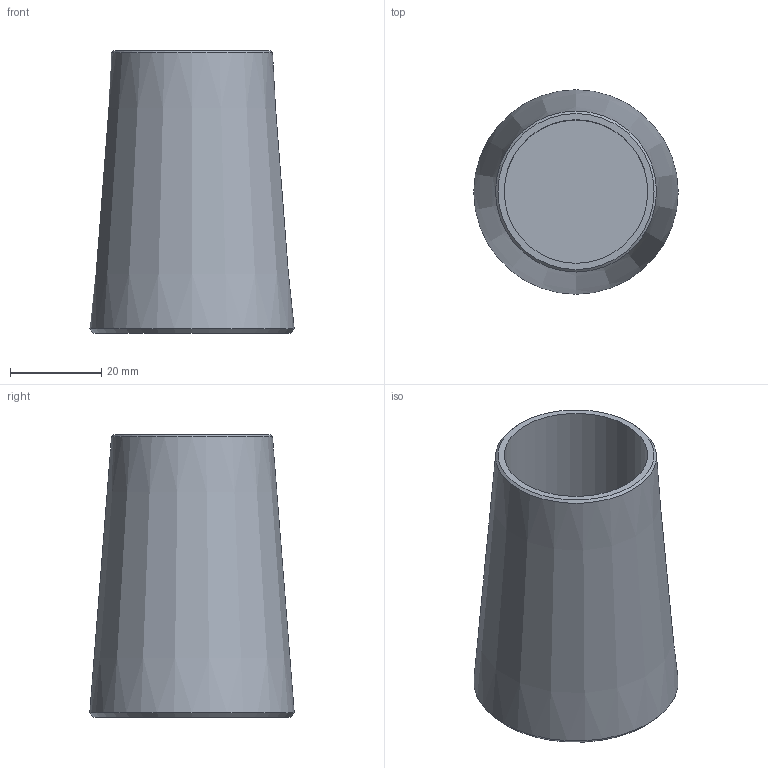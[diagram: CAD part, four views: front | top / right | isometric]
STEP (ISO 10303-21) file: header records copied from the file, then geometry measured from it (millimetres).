
FILE_DESCRIPTION(/* description */ (''),/* implementation_level */ '2;1');
FILE_NAME(/* name */ 'C:\Vault_WS\Designs\SB\01-PX\Verzinkt\ZSS\520 - Kontermutter\520-030-KMU.stp',/* time_stamp */ '2020-06-18T12:26:36+02:00',/* author */ ('schwarz'),/* organization */ (''),/* preprocessor_version */ 'ST-DEVELOPER v16.1',/* originating_system */ 'Autodesk Inventor 2016',/* authorisation */ '');
FILE_SCHEMA (('AUTOMOTIVE_DESIGN { 1 0 10303 214 3 1 1 }'));
Length unit declared in the file: millimetre
Products named in the file (1): Kontermutter 520 030 Kunde
Bounding box: 44.84 x 44.84 x 62 mm (x, y, z)
Volume: 42057.4 mm3; surface area: 14934 mm2
Topology: 1 solids, 1 shells, 7 faces, 10 edges, 6 vertices
Faces by surface type: cone 3, plane 3, cylinder 1
Full cylindrical faces by diameter (mm): 31.5 x1
Entity records: 158 total; most frequent: DIRECTION 28, CARTESIAN_POINT 20, AXIS2_PLACEMENT_3D 14, EDGE_LOOP 12, ORIENTED_EDGE 12, FACE_OUTER_BOUND 7, ADVANCED_FACE 7, CIRCLE 6
